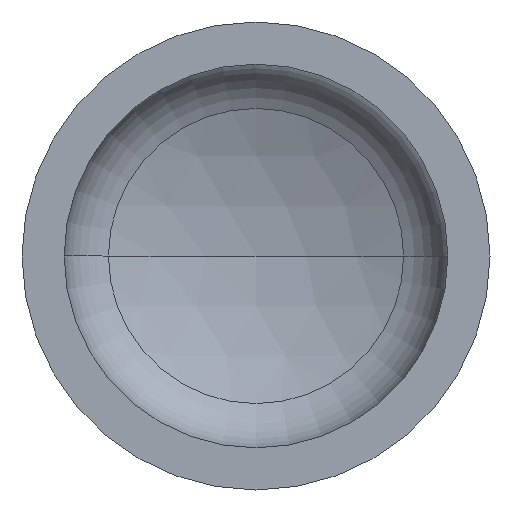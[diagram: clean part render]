
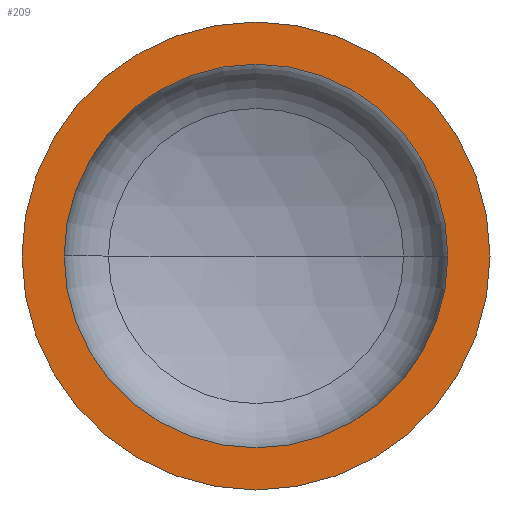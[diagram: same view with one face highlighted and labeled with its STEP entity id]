
A CAD part, front view. The second image highlights one B-rep face of the part: STEP entity #209.
In plain terms, the highlighted planar face has unit normal (0, -1, 0).
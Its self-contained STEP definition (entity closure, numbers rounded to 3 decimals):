
#14 = EDGE_LOOP ( 'NONE', ( #43, #95 ) ) ;
#26 = DIRECTION ( 'NONE',  ( 1., 0., 0. ) ) ;
#29 = DIRECTION ( 'NONE',  ( 0., -1., 0. ) ) ;
#30 = CARTESIAN_POINT ( 'NONE',  ( 0., 0., 0. ) ) ;
#40 = VERTEX_POINT ( 'NONE', #363 ) ;
#41 = FACE_BOUND ( 'NONE', #82, .T. ) ;
#43 = ORIENTED_EDGE ( 'NONE', *, *, #280, .T. ) ;
#49 = AXIS2_PLACEMENT_3D ( 'NONE', #30, #29, #26 ) ;
#54 = AXIS2_PLACEMENT_3D ( 'NONE', #203, #204, #222 ) ;
#64 = AXIS2_PLACEMENT_3D ( 'NONE', #197, #210, #343 ) ;
#68 = VERTEX_POINT ( 'NONE', #267 ) ;
#69 = CIRCLE ( 'NONE', #89, 400. ) ;
#82 = EDGE_LOOP ( 'NONE', ( #128, #156 ) ) ;
#86 = AXIS2_PLACEMENT_3D ( 'NONE', #304, #311, #308 ) ;
#89 = AXIS2_PLACEMENT_3D ( 'NONE', #341, #377, #378 ) ;
#95 = ORIENTED_EDGE ( 'NONE', *, *, #121, .T. ) ;
#121 = EDGE_CURVE ( 'NONE', #126, #68, #69, .T. ) ;
#125 = EDGE_CURVE ( 'NONE', #154, #40, #375, .T. ) ;
#126 = VERTEX_POINT ( 'NONE', #359 ) ;
#128 = ORIENTED_EDGE ( 'NONE', *, *, #125, .F. ) ;
#154 = VERTEX_POINT ( 'NONE', #307 ) ;
#156 = ORIENTED_EDGE ( 'NONE', *, *, #313, .F. ) ;
#171 = CIRCLE ( 'NONE', #54, 400. ) ;
#183 = FACE_OUTER_BOUND ( 'NONE', #14, .T. ) ;
#197 = CARTESIAN_POINT ( 'NONE',  ( -400., 0., 0. ) ) ;
#203 = CARTESIAN_POINT ( 'NONE',  ( 0., 0., 0. ) ) ;
#204 = DIRECTION ( 'NONE',  ( 0., -1., 0. ) ) ;
#209 = ADVANCED_FACE ( 'NONE', ( #41, #183 ), #315, .F. ) ;
#210 = DIRECTION ( 'NONE',  ( 0., 1., 0. ) ) ;
#222 = DIRECTION ( 'NONE',  ( 1., 0., 0. ) ) ;
#267 = CARTESIAN_POINT ( 'NONE',  ( 400., 0., 0. ) ) ;
#280 = EDGE_CURVE ( 'NONE', #68, #126, #171, .T. ) ;
#294 = CIRCLE ( 'NONE', #49, 328. ) ;
#304 = CARTESIAN_POINT ( 'NONE',  ( 0., 0., 0. ) ) ;
#307 = CARTESIAN_POINT ( 'NONE',  ( 328., 0., 0. ) ) ;
#308 = DIRECTION ( 'NONE',  ( 1., 0., 0. ) ) ;
#311 = DIRECTION ( 'NONE',  ( 0., -1., 0. ) ) ;
#313 = EDGE_CURVE ( 'NONE', #40, #154, #294, .T. ) ;
#315 = PLANE ( 'NONE',  #64 ) ;
#341 = CARTESIAN_POINT ( 'NONE',  ( 0., 0., 0. ) ) ;
#343 = DIRECTION ( 'NONE',  ( -1., 0., 0. ) ) ;
#359 = CARTESIAN_POINT ( 'NONE',  ( -400., 0., 0. ) ) ;
#363 = CARTESIAN_POINT ( 'NONE',  ( -328., 0., 0. ) ) ;
#375 = CIRCLE ( 'NONE', #86, 328. ) ;
#377 = DIRECTION ( 'NONE',  ( 0., -1., 0. ) ) ;
#378 = DIRECTION ( 'NONE',  ( 1., 0., 0. ) ) ;
